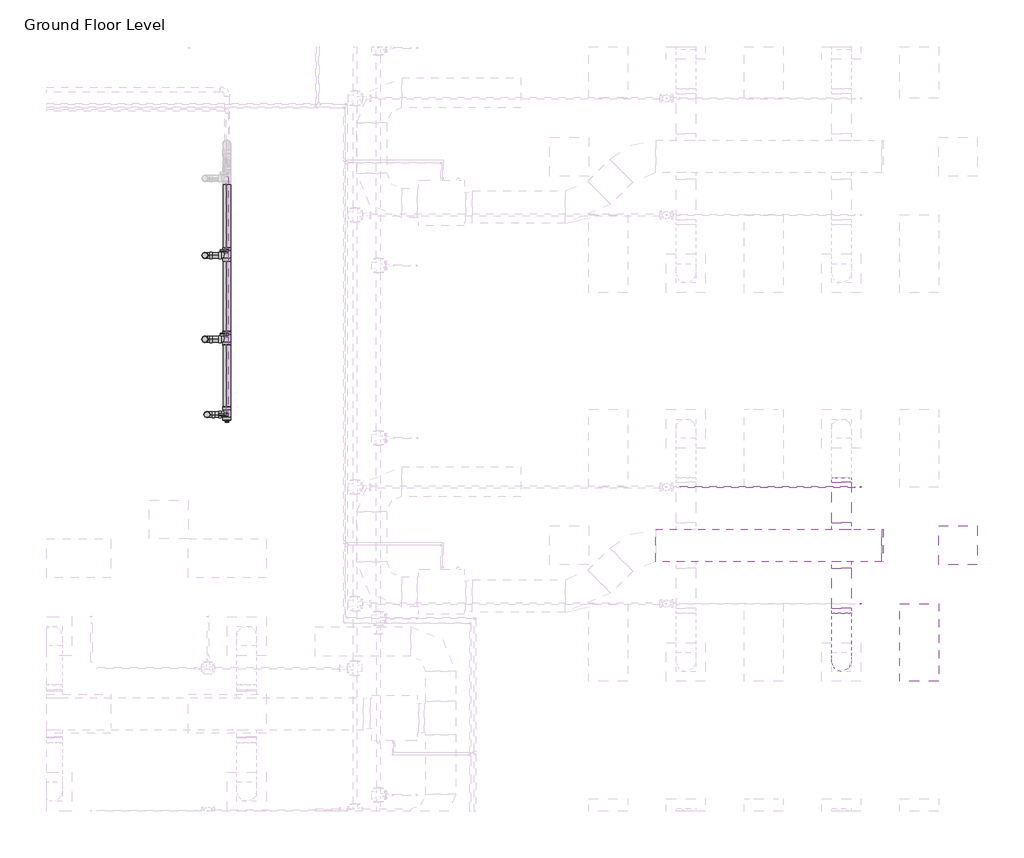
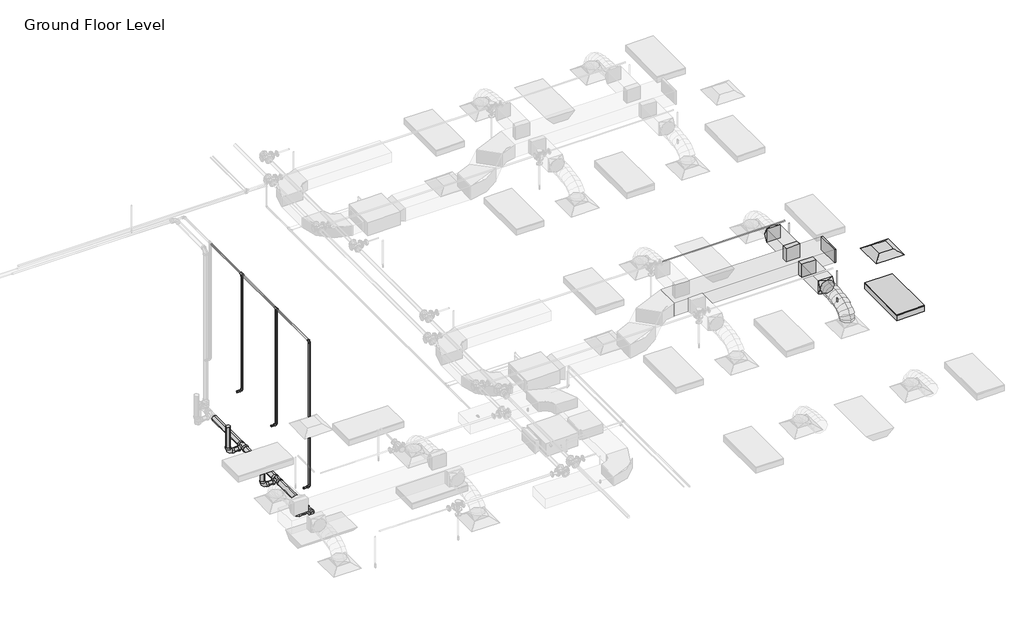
# One storey, part 64 of 72: 21 pipe segments, 13 pipe fittings, 5 duct fittings, 4 duct segments, 2 fire suppression terminals, 1 air terminal, 1 light fixture.
"""IFC4 building model written with IfcOpenShell, lengths in millimetres."""

from ifc_helpers import new_model, si_unit, point, frame, frame_2d, origin, place, context, project, spatial, polyline, circle_curve, ellipse_curve, trimmed, segment, composite_curve, outline, extrude, transform, mapped, element, save
from ifc_brep_helpers import plane_surface, cylinder_surface, advanced_brep
from components import m_return_diffuser_600_x_600_face_300_x_300_connection_ff221211, m_rectangular_endcap_standard_72d4d00d, m_rectangular_takeoff_standard_cb0ccb98, m_rectangular_takeoff_standard_2be5eba1, m_rectangular_to_round_transition_angle_45_degree_641efff0, m_sprinkler_dry_pendent_hosted_15_mm_dry_pendent_9bda8e11, m_troffer_light_parabolic_rectangular1_0600x1200mm_4_lamp_86473d4a, m_bend_pvc_sch_40_dwv_standard_a4b99d37, m_plug_pvc_sch_40_dwv_standard_6c40de1c, m_tee_reducing_sanitary_pvc_sch_40_dwv_standard_b49161a9, standard_517a5a8d, standard_72b35c3b, standard_bfa7e4ca

model = new_model("IFC4")

# Units and contexts
model_context = context("Model", 3, world=origin())
ifc_project = project(units=[si_unit("LENGTHUNIT", "METRE", prefix="MILLI")], contexts=[model_context])

# Site, building, storey
site = spatial("IfcSite", under=ifc_project)
building = spatial("IfcBuilding", under=site)
storey = spatial("IfcBuildingStorey", under=building, Name="Ground Floor Level", Elevation=900.0)

# Air terminal
placement = place(None, origin())
m_return_diffuser_600_x_600_face_300_x_300_connection_shape = m_return_diffuser_600_x_600_face_300_x_300_connection_ff221211(model_context)
element("IfcAirTerminal", 1, ObjectType="M_Return Diffuser : 600 x 600 Face 300 x 300 Connection", at=placement, inside=storey, context=model_context, shape_type="MappedRepresentation", body=[
    mapped(m_return_diffuser_600_x_600_face_300_x_300_connection_shape, transform((14942.7672395, 6735.2153534, 3650.0), x_axis=(1.0, 0.0, 0.0), y_axis=(0.0, 1.0, 0.0), z_axis=(0.0, 0.0, 1.0))),
])

# Duct fittings
m_rectangular_endcap_standard_shape = m_rectangular_endcap_standard_72d4d00d(model_context)
element("IfcDuctFitting", 2, ObjectType="M_Rectangular Endcap : Standard", at=placement, inside=storey, context=model_context, shape_type="MappedRepresentation", body=[
    mapped(m_rectangular_endcap_standard_shape, transform((13766.7301365, 6735.2153534, 4100.0), x_axis=(1.0, 0.0, 0.0), y_axis=(0.0, 1.0, 0.0), z_axis=(0.0, 0.0, 1.0))),
])
m_rectangular_takeoff_standard_shape = m_rectangular_takeoff_standard_cb0ccb98(model_context)
element("IfcDuctFitting", 3, ObjectType="M_Rectangular Takeoff : Standard", at=placement, inside=storey, context=model_context, shape_type="MappedRepresentation", body=[
    mapped(m_rectangular_takeoff_standard_shape, transform((13142.7672395, 6985.2153534, 4100.0), x_axis=(0.0, 1.0, 0.0), y_axis=(1.0, 0.0, 0.0), z_axis=(0.0, 0.0, -1.0))),
])
m_rectangular_takeoff_standard_2_shape = m_rectangular_takeoff_standard_2be5eba1(model_context)
element("IfcDuctFitting", 4, ObjectType="M_Rectangular Takeoff : Standard", at=placement, inside=storey, context=model_context, shape_type="MappedRepresentation", body=[
    mapped(m_rectangular_takeoff_standard_2_shape, transform((13142.7672395, 6485.2153534, 4100.0), x_axis=(0.0, -1.0, 0.0), y_axis=(-1.0, 0.0, 0.0), z_axis=(0.0, 0.0, -1.0))),
])
m_rectangular_to_round_transition_angle_45_degree_shape = m_rectangular_to_round_transition_angle_45_degree_641efff0(model_context)
element("IfcDuctFitting", 5, ObjectType="M_Rectangular to Round Transition - Angle : 45 Degree", at=placement, inside=storey, context=model_context, shape_type="MappedRepresentation", body=[
    mapped(m_rectangular_to_round_transition_angle_45_degree_shape, transform((13142.7672395, 5762.5512847, 4100.0), x_axis=(0.0, -1.0, 0.0), y_axis=(1.0, 0.0, 0.0), z_axis=(0.0, 0.0, 1.0))),
])
element("IfcDuctFitting", 6, ObjectType="M_Rectangular to Round Transition - Angle : 45 Degree", at=placement, inside=storey, context=model_context, shape_type="MappedRepresentation", body=[
    mapped(m_rectangular_to_round_transition_angle_45_degree_shape, transform((13142.7672395, 7707.8794221, 4100.0), x_axis=(0.0, 1.0, 0.0), y_axis=(-1.0, 0.0, 0.0), z_axis=(0.0, 0.0, 1.0))),
])

# Duct segments
element("IfcDuctSegment", 7, ObjectType="Flex - Round", at=placement, inside=storey, context=model_context, shape_type="AdvancedBrep", body=[
    advanced_brep(
    [(13292.7672395, 4935.2153534, 3826.6), (13142.7672395, 4785.2153534, 3826.6), (12992.7672395, 4935.2153534, 3826.6), (13142.7672395, 5085.2153534, 3826.6), (13292.7672395, 4935.2153534, 3857.9377114), (13142.7672395, 4785.2153534, 3883.5809337), (12992.7672395, 4935.2153534, 3857.9377114), (13142.7672395, 5085.2153534, 3832.2944892), (13292.7672395, 4952.2312859, 3906.2505728), (13142.7672395, 4818.493307, 3978.0660967), (12992.7672395, 4952.2312859, 3906.2505728), (13142.7672395, 5085.9692649, 3834.435049), (13292.7672395, 4999.4151663, 3968.7113131), (13142.7672395, 4895.209267, 4079.6206026), (12992.7672395, 4999.4151663, 3968.7113131), (13142.7672395, 5103.6210655, 3857.8020236), (13292.7672395, 5070.9711184, 4016.0700639), (13142.7672395, 5002.0370628, 4150.3237489), (12992.7672395, 5070.9711184, 4016.0700639), (13142.7672395, 5139.9051741, 3881.8163788), (13292.7672395, 5161.1032664, 4050.4146682), (13142.7672395, 5117.5425033, 4194.3367758), (12992.7672395, 5161.1032664, 4050.4146682), (13142.7672395, 5204.6640296, 3906.4925606), (13292.7672395, 5264.0157343, 4073.8329691), (13142.7672395, 5237.4548103, 4221.6234841), (12992.7672395, 5264.0157343, 4073.8329691), (13142.7672395, 5290.5766583, 3926.0424542), (13292.7672395, 5373.912646, 4088.4128097), (13142.7672395, 5358.7617437, 4237.7170733), (12992.7672395, 5373.912646, 4088.4128097), (13142.7672395, 5389.0635483, 3939.1085462), (13292.7672395, 5484.9981256, 4096.242033), (13142.7672395, 5477.4927974, 4246.085151), (12992.7672395, 5484.9981256, 4096.242033), (13142.7672395, 5492.5034538, 3946.398915), (13292.7672395, 5591.4762972, 4099.4084821), (13142.7672395, 5588.7848041, 4249.394754), (12992.7672395, 5591.4762972, 4099.4084821), (13142.7672395, 5594.1677903, 3949.4222102), (13292.7672395, 5687.5512847, 4100.0), (13142.7672395, 5688.4747925, 3950.0028429), (12992.7672395, 5687.5512847, 4100.0), (13142.7672395, 5686.6277768, 4249.9971571)],
    [
        (0, 1, circle_curve(frame((13142.7672395, 4935.2153534, 3826.6), z_axis=(0.0, 0.0, -1.0), x_axis=(1.0, 0.0, 0.0)), 150.0)),
        (1, 2, circle_curve(frame((13142.7672395, 4935.2153534, 3826.6), z_axis=(0.0, 0.0, -1.0), x_axis=(1.0, 0.0, 0.0)), 150.0)),
        (2, 3, circle_curve(frame((13142.7672395, 4935.2153534, 3826.6), z_axis=(0.0, 0.0, -1.0), x_axis=(1.0, 0.0, 0.0)), 150.0)),
        (3, 0, circle_curve(frame((13142.7672395, 4935.2153534, 3826.6), z_axis=(0.0, 0.0, -1.0), x_axis=(1.0, 0.0, 0.0)), 150.0)),
        (0, 4),
        (4, 5, ellipse_curve(frame((13142.7672395, 4935.2153534, 3857.9377114), z_axis=(0.0, -0.16851014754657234, -0.9856999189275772), x_axis=(0.0, 0.9856999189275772, -0.1685101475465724)), 152.176131, 150.0)),
        (5, 1),
        (5, 6, ellipse_curve(frame((13142.7672395, 4935.2153534, 3857.9377114), z_axis=(0.0, -0.16851014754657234, -0.9856999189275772), x_axis=(0.0, 0.9856999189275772, -0.1685101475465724)), 152.176131, 150.0)),
        (6, 2),
        (6, 7, ellipse_curve(frame((13142.7672395, 4935.2153534, 3857.9377114), z_axis=(0.0, -0.16851014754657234, -0.9856999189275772), x_axis=(0.0, 0.9856999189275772, -0.1685101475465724)), 152.176131, 150.0)),
        (7, 3),
        (7, 4, ellipse_curve(frame((13142.7672395, 4935.2153534, 3857.9377114), z_axis=(0.0, -0.16851014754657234, -0.9856999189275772), x_axis=(0.0, 0.9856999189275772, -0.1685101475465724)), 152.176131, 150.0)),
        (4, 8),
        (8, 9, ellipse_curve(frame((13142.7672395, 4952.2312859, 3906.2505728), z_axis=(0.0, -0.4730922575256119, -0.8810128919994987), x_axis=(0.0, 0.8810128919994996, -0.47309225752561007)), 151.8002519, 150.0)),
        (9, 5),
        (9, 10, ellipse_curve(frame((13142.7672395, 4952.2312859, 3906.2505728), z_axis=(0.0, -0.4730922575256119, -0.8810128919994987), x_axis=(0.0, 0.8810128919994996, -0.47309225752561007)), 151.8002519, 150.0)),
        (10, 6),
        (10, 11, ellipse_curve(frame((13142.7672395, 4952.2312859, 3906.2505728), z_axis=(0.0, -0.4730922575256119, -0.8810128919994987), x_axis=(0.0, 0.8810128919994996, -0.47309225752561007)), 151.8002519, 150.0)),
        (11, 7),
        (11, 8, ellipse_curve(frame((13142.7672395, 4952.2312859, 3906.2505728), z_axis=(0.0, -0.4730922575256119, -0.8810128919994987), x_axis=(0.0, 0.8810128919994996, -0.47309225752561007)), 151.8002519, 150.0)),
        (8, 12),
        (12, 13, ellipse_curve(frame((13142.7672395, 4999.4151663, 3968.7113131), z_axis=(0.0, -0.7287877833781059, -0.6847396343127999), x_axis=(0.0, 0.6847396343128, -0.7287877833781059)), 152.1832446, 150.0)),
        (13, 9),
        (13, 14, ellipse_curve(frame((13142.7672395, 4999.4151663, 3968.7113131), z_axis=(0.0, -0.7287877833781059, -0.6847396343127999), x_axis=(0.0, 0.6847396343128, -0.7287877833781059)), 152.1832446, 150.0)),
        (14, 10),
        (14, 15, ellipse_curve(frame((13142.7672395, 4999.4151663, 3968.7113131), z_axis=(0.0, -0.7287877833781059, -0.6847396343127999), x_axis=(0.0, 0.6847396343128, -0.7287877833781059)), 152.1832446, 150.0)),
        (15, 11),
        (15, 12, ellipse_curve(frame((13142.7672395, 4999.4151663, 3968.7113131), z_axis=(0.0, -0.7287877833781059, -0.6847396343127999), x_axis=(0.0, 0.6847396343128, -0.7287877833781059)), 152.1832446, 150.0)),
        (12, 16),
        (16, 17, ellipse_curve(frame((13142.7672395, 5070.9711184, 4016.0700639), z_axis=(0.0, -0.8895859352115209, -0.4567678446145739), x_axis=(0.0, 0.4567678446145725, -0.8895859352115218)), 150.91705, 150.0)),
        (17, 13),
        (17, 18, ellipse_curve(frame((13142.7672395, 5070.9711184, 4016.0700639), z_axis=(0.0, -0.8895859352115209, -0.4567678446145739), x_axis=(0.0, 0.4567678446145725, -0.8895859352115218)), 150.91705, 150.0)),
        (18, 14),
        (18, 19, ellipse_curve(frame((13142.7672395, 5070.9711184, 4016.0700639), z_axis=(0.0, -0.8895859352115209, -0.4567678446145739), x_axis=(0.0, 0.4567678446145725, -0.8895859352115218)), 150.91705, 150.0)),
        (19, 15),
        (19, 16, ellipse_curve(frame((13142.7672395, 5070.9711184, 4016.0700639), z_axis=(0.0, -0.8895859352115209, -0.4567678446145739), x_axis=(0.0, 0.4567678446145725, -0.8895859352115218)), 150.91705, 150.0)),
        (16, 20),
        (20, 21, ellipse_curve(frame((13142.7672395, 5161.1032664, 4050.4146682), z_axis=(0.0, -0.9571203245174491, -0.28969067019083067), x_axis=(0.0, 0.28969067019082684, -0.9571203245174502)), 150.369921, 150.0)),
        (21, 17),
        (21, 22, ellipse_curve(frame((13142.7672395, 5161.1032664, 4050.4146682), z_axis=(0.0, -0.9571203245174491, -0.28969067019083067), x_axis=(0.0, 0.28969067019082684, -0.9571203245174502)), 150.369921, 150.0)),
        (22, 18),
        (22, 23, ellipse_curve(frame((13142.7672395, 5161.1032664, 4050.4146682), z_axis=(0.0, -0.9571203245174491, -0.28969067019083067), x_axis=(0.0, 0.28969067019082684, -0.9571203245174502)), 150.369921, 150.0)),
        (23, 19),
        (23, 20, ellipse_curve(frame((13142.7672395, 5161.1032664, 4050.4146682), z_axis=(0.0, -0.9571203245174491, -0.28969067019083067), x_axis=(0.0, 0.28969067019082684, -0.9571203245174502)), 150.369921, 150.0)),
        (20, 24),
        (24, 25, ellipse_curve(frame((13142.7672395, 5264.0157343, 4073.8329691), z_axis=(0.0, -0.9842313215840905, -0.17688613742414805), x_axis=(0.0, 0.17688613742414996, -0.9842313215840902)), 150.1583131, 150.0)),
        (25, 21),
        (25, 26, ellipse_curve(frame((13142.7672395, 5264.0157343, 4073.8329691), z_axis=(0.0, -0.9842313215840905, -0.17688613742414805), x_axis=(0.0, 0.17688613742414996, -0.9842313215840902)), 150.1583131, 150.0)),
        (26, 22),
        (26, 27, ellipse_curve(frame((13142.7672395, 5264.0157343, 4073.8329691), z_axis=(0.0, -0.9842313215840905, -0.17688613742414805), x_axis=(0.0, 0.17688613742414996, -0.9842313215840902)), 150.1583131, 150.0)),
        (27, 23),
        (27, 24, ellipse_curve(frame((13142.7672395, 5264.0157343, 4073.8329691), z_axis=(0.0, -0.9842313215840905, -0.17688613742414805), x_axis=(0.0, 0.17688613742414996, -0.9842313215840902)), 150.1583131, 150.0)),
        (24, 28),
        (28, 29, ellipse_curve(frame((13142.7672395, 5373.912646, 4088.4128097), z_axis=(0.0, -0.9948906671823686, -0.10095821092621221), x_axis=(0.0, 0.10095821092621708, -0.9948906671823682)), 150.0710264, 150.0)),
        (29, 25),
        (29, 30, ellipse_curve(frame((13142.7672395, 5373.912646, 4088.4128097), z_axis=(0.0, -0.9948906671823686, -0.10095821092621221), x_axis=(0.0, 0.10095821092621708, -0.9948906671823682)), 150.0710264, 150.0)),
        (30, 26),
        (30, 31, ellipse_curve(frame((13142.7672395, 5373.912646, 4088.4128097), z_axis=(0.0, -0.9948906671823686, -0.10095821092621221), x_axis=(0.0, 0.10095821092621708, -0.9948906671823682)), 150.0710264, 150.0)),
        (31, 27),
        (31, 28, ellipse_curve(frame((13142.7672395, 5373.912646, 4088.4128097), z_axis=(0.0, -0.9948906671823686, -0.10095821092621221), x_axis=(0.0, 0.10095821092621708, -0.9948906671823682)), 150.0710264, 150.0)),
        (28, 32),
        (32, 33, ellipse_curve(frame((13142.7672395, 5484.9981256, 4096.242033), z_axis=(0.0, -0.9987479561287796, -0.05002519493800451), x_axis=(0.0, 0.050025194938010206, -0.9987479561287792)), 150.0309634, 150.0)),
        (33, 29),
        (33, 34, ellipse_curve(frame((13142.7672395, 5484.9981256, 4096.242033), z_axis=(0.0, -0.9987479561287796, -0.05002519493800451), x_axis=(0.0, 0.050025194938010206, -0.9987479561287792)), 150.0309634, 150.0)),
        (34, 30),
        (34, 35, ellipse_curve(frame((13142.7672395, 5484.9981256, 4096.242033), z_axis=(0.0, -0.9987479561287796, -0.05002519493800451), x_axis=(0.0, 0.050025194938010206, -0.9987479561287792)), 150.0309634, 150.0)),
        (35, 31),
        (35, 32, ellipse_curve(frame((13142.7672395, 5484.9981256, 4096.242033), z_axis=(0.0, -0.9987479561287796, -0.05002519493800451), x_axis=(0.0, 0.050025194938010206, -0.9987479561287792)), 150.0309634, 150.0)),
        (32, 36),
        (36, 37, ellipse_curve(frame((13142.7672395, 5591.4762972, 4099.4084821), z_axis=(0.0, -0.9998390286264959, -0.017942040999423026), x_axis=(0.0, 0.01794204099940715, -0.9998390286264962)), 150.0104193, 150.0)),
        (37, 33),
        (37, 38, ellipse_curve(frame((13142.7672395, 5591.4762972, 4099.4084821), z_axis=(0.0, -0.9998390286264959, -0.017942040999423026), x_axis=(0.0, 0.01794204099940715, -0.9998390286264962)), 150.0104193, 150.0)),
        (38, 34),
        (38, 39, ellipse_curve(frame((13142.7672395, 5591.4762972, 4099.4084821), z_axis=(0.0, -0.9998390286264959, -0.017942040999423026), x_axis=(0.0, 0.01794204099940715, -0.9998390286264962)), 150.0104193, 150.0)),
        (39, 35),
        (39, 36, ellipse_curve(frame((13142.7672395, 5591.4762972, 4099.4084821), z_axis=(0.0, -0.9998390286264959, -0.017942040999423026), x_axis=(0.0, 0.01794204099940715, -0.9998390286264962)), 150.0104193, 150.0)),
        (40, 41, circle_curve(frame((13142.7672395, 5687.5512847, 4100.0), z_axis=(0.0, 0.9999810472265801, 0.006156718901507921), x_axis=(1.0, 0.0, 0.0)), 150.0)),
        (41, 42, circle_curve(frame((13142.7672395, 5687.5512847, 4100.0), z_axis=(0.0, 0.9999810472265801, 0.006156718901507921), x_axis=(1.0, 0.0, 0.0)), 150.0)),
        (42, 43, circle_curve(frame((13142.7672395, 5687.5512847, 4100.0), z_axis=(0.0, 0.9999810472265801, 0.006156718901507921), x_axis=(1.0, 0.0, 0.0)), 150.0)),
        (43, 40, circle_curve(frame((13142.7672395, 5687.5512847, 4100.0), z_axis=(0.0, 0.9999810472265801, 0.006156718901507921), x_axis=(1.0, 0.0, 0.0)), 150.0)),
        (36, 40),
        (43, 37),
        (42, 38),
        (41, 39),
    ],
    [
        plane_surface(frame((13142.7672395, 4785.2153534, 3826.6), z_axis=(0.0, 0.0, -1.0), x_axis=(1.0, 0.0, 0.0))),
        cylinder_surface(frame((13142.7672395, 4935.2153534, 3826.6), z_axis=(0.0, 0.0, -1.0), x_axis=(1.0, 0.0, 0.0)), 150.0),
        cylinder_surface(frame((13142.7672395, 4935.2153534, 3857.9377114), z_axis=(0.0, -0.3322008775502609, -0.9432086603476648), x_axis=(1.0, 0.0, 0.0)), 150.0),
        cylinder_surface(frame((13142.7672395, 4952.2312859, 3906.2505728), z_axis=(0.0, -0.6027625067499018, -0.7979206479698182), x_axis=(1.0, 0.0, 0.0)), 150.0),
        cylinder_surface(frame((13142.7672395, 4999.4151663, 3968.7113131), z_axis=(0.0, -0.8339024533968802, -0.5519118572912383), x_axis=(1.0, 0.0, 0.0)), 150.0),
        cylinder_surface(frame((13142.7672395, 5070.9711184, 4016.0700639), z_axis=(0.0, -0.934458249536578, -0.35607271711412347), x_axis=(1.0, 0.0, 0.0)), 150.0),
        cylinder_surface(frame((13142.7672395, 5161.1032664, 4050.4146682), z_axis=(0.0, -0.9750732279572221, -0.22188330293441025), x_axis=(1.0, 0.0, 0.0)), 150.0),
        cylinder_surface(frame((13142.7672395, 5264.0157343, 4073.8329691), z_axis=(0.0, -0.9913140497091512, -0.1315159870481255), x_axis=(1.0, 0.0, 0.0)), 150.0),
        cylinder_surface(frame((13142.7672395, 5373.912646, 4088.4128097), z_axis=(0.0, -0.9975255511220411, -0.07030487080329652), x_axis=(1.0, 0.0, 0.0)), 150.0),
        cylinder_surface(frame((13142.7672395, 5484.9981256, 4096.242033), z_axis=(0.0, -0.9995581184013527, -0.02972487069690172), x_axis=(1.0, 0.0, 0.0)), 150.0),
        plane_surface(frame((13142.7672395, 5686.6277768, 4249.9971571), z_axis=(0.0, 0.9999810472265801, 0.0061567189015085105), x_axis=(1.0, 0.0, 0.0))),
        cylinder_surface(frame((13142.7672395, 5591.4762972, 4099.4084821), z_axis=(0.0, -0.9999810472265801, -0.006156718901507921), x_axis=(1.0, 0.0, 0.0)), 150.0),
    ],
    [
        (0, [[1, 2, 3, 4]]),
        (1, [[-1, 5, 6, 7]]),
        (1, [[-2, -7, 8, 9]]),
        (1, [[-3, -9, 10, 11]]),
        (1, [[-4, -11, 12, -5]]),
        (2, [[-6, 13, 14, 15]]),
        (2, [[-8, -15, 16, 17]]),
        (2, [[-10, -17, 18, 19]]),
        (2, [[-12, -19, 20, -13]]),
        (3, [[-14, 21, 22, 23]]),
        (3, [[-16, -23, 24, 25]]),
        (3, [[-18, -25, 26, 27]]),
        (3, [[-20, -27, 28, -21]]),
        (4, [[-22, 29, 30, 31]]),
        (4, [[-24, -31, 32, 33]]),
        (4, [[-26, -33, 34, 35]]),
        (4, [[-28, -35, 36, -29]]),
        (5, [[-30, 37, 38, 39]]),
        (5, [[-32, -39, 40, 41]]),
        (5, [[-34, -41, 42, 43]]),
        (5, [[-36, -43, 44, -37]]),
        (6, [[-38, 45, 46, 47]]),
        (6, [[-40, -47, 48, 49]]),
        (6, [[-42, -49, 50, 51]]),
        (6, [[-44, -51, 52, -45]]),
        (7, [[-46, 53, 54, 55]]),
        (7, [[-48, -55, 56, 57]]),
        (7, [[-50, -57, 58, 59]]),
        (7, [[-52, -59, 60, -53]]),
        (8, [[-54, 61, 62, 63]]),
        (8, [[-56, -63, 64, 65]]),
        (8, [[-58, -65, 66, 67]]),
        (8, [[-60, -67, 68, -61]]),
        (9, [[-62, 69, 70, 71]]),
        (9, [[-64, -71, 72, 73]]),
        (9, [[-66, -73, 74, 75]]),
        (9, [[-68, -75, 76, -69]]),
        (10, [[77, 78, 79, 80]]),
        (11, [[-70, 81, -80, 82]]),
        (11, [[-72, -82, -79, 83]]),
        (11, [[-74, -83, -78, 84]]),
        (11, [[-76, -84, -77, -81]]),
    ],
),
])
element("IfcDuctSegment", 8, ObjectType="Radius Elbows / Taps", at=placement, inside=storey, context=model_context, shape_type="SweptSolid", body=[
    extrude(outline(polyline([(10277.3903083, 6485.2153534), (10277.3903083, 6985.2153534), (13766.7301365, 6985.2153534), (13766.7301365, 6485.2153534), (10277.3903083, 6485.2153534)])), frame((0.0, 0.0, 3950.0), z_axis=(0.0, 0.0, 1.0), x_axis=(1.0, 0.0, 0.0)), (0.0, 0.0, 1.0), 300.0),
])
element("IfcDuctSegment", 9, ObjectType="Radius Elbows / Taps", at=placement, inside=storey, context=model_context, shape_type="SweptSolid", body=[
    extrude(outline(polyline([(13292.7672395, 7086.8153534), (12992.7672395, 7086.8153534), (12992.7672395, 7707.8794221), (13292.7672395, 7707.8794221), (13292.7672395, 7086.8153534)])), frame((0.0, 0.0, 3950.0), z_axis=(0.0, 0.0, 1.0), x_axis=(1.0, 0.0, 0.0)), (0.0, 0.0, 1.0), 300.0),
])
element("IfcDuctSegment", 10, ObjectType="Radius Elbows / Taps", at=placement, inside=storey, context=model_context, shape_type="SweptSolid", body=[
    extrude(outline(polyline([(12992.7672395, 6383.6153534), (13292.7672395, 6383.6153534), (13292.7672395, 5762.5512847), (12992.7672395, 5762.5512847), (12992.7672395, 6383.6153534)])), frame((0.0, 0.0, 3950.0), z_axis=(0.0, 0.0, 1.0), x_axis=(1.0, 0.0, 0.0)), (0.0, 0.0, 1.0), 300.0),
])

# Fire suppression terminals
m_sprinkler_dry_pendent_hosted_15_mm_dry_pendent_shape = m_sprinkler_dry_pendent_hosted_15_mm_dry_pendent_9bda8e11(model_context)
element("IfcFireSuppressionTerminal", 11, ObjectType="M_Sprinkler - Dry - Pendent - Hosted : 15 mm Dry Pendent", at=placement, inside=storey, context=model_context, shape_type="MappedRepresentation", body=[
    mapped(m_sprinkler_dry_pendent_hosted_15_mm_dry_pendent_shape, transform((13442.7672395, 7635.2153534, 3650.0), x_axis=(1.0, 0.0, 0.0), y_axis=(0.0, -1.0, 0.0), z_axis=(0.0, 0.0, -1.0))),
])
element("IfcFireSuppressionTerminal", 12, ObjectType="M_Sprinkler - Dry - Pendent - Hosted : 15 mm Dry Pendent", at=placement, inside=storey, context=model_context, shape_type="MappedRepresentation", body=[
    mapped(m_sprinkler_dry_pendent_hosted_15_mm_dry_pendent_shape, transform((13442.7672395, 5835.2153534, 3650.0), x_axis=(1.0, 0.0, 0.0), y_axis=(0.0, -1.0, 0.0), z_axis=(0.0, 0.0, -1.0))),
])

# Light fixture
m_troffer_light_parabolic_rectangular1_0600x1200mm_4_lamp_shape = m_troffer_light_parabolic_rectangular1_0600x1200mm_4_lamp_86473d4a(model_context)
element("IfcLightFixture", 13, ObjectType="M_Troffer Light - Parabolic Rectangular1 : 0600x1200mm(4 Lamp) - 277V 2", at=placement, inside=storey, context=model_context, shape_type="MappedRepresentation", body=[
    mapped(m_troffer_light_parabolic_rectangular1_0600x1200mm_4_lamp_shape, transform((14283.3013074, 5253.9188549, 3650.0), x_axis=(0.0, 1.0, 0.0), y_axis=(-1.0, 0.0, 0.0), z_axis=(0.0, 0.0, 1.0))),
])

# Pipe fittings
m_bend_pvc_sch_40_dwv_standard_shape = m_bend_pvc_sch_40_dwv_standard_a4b99d37(model_context)
element("IfcPipeFitting", 14, ObjectType="M_Bend - PVC - Sch 40 - DWV : Standard", at=placement, inside=storey, context=model_context, shape_type="MappedRepresentation", body=[
    mapped(m_bend_pvc_sch_40_dwv_standard_shape, transform((3351.3697667, 8754.4159333, 426.6255336), x_axis=(0.0, 0.0, -1.0), y_axis=(1.0, 0.0, 0.0), z_axis=(0.0, -1.0, 0.0))),
])
element("IfcPipeFitting", 15, ObjectType="M_Bend - PVC - Sch 40 - DWV : Standard", at=placement, inside=storey, context=model_context, shape_type="MappedRepresentation", body=[
    mapped(m_bend_pvc_sch_40_dwv_standard_shape, transform((3319.2245422, 9917.654001, 414.9931529), x_axis=(0.0, 0.0, -1.0), y_axis=(1.0, 0.0, 0.0), z_axis=(0.0, -1.0, 0.0))),
])
element("IfcPipeFitting", 16, ObjectType="M_Bend - PVC - Sch 40 - DWV : Standard", at=placement, inside=storey, context=model_context, shape_type="MappedRepresentation", body=[
    mapped(m_bend_pvc_sch_40_dwv_standard_shape, transform((3319.2245422, 11211.6258776, 402.0534342), x_axis=(0.0, 0.0, -1.0), y_axis=(1.0, 0.0, 0.0), z_axis=(0.0, -1.0, 0.0))),
])
m_plug_pvc_sch_40_dwv_standard_shape = m_plug_pvc_sch_40_dwv_standard_6c40de1c(model_context)
element("IfcPipeFitting", 17, ObjectType="M_Plug - PVC - Sch 40 - DWV : Standard", at=placement, inside=storey, context=model_context, shape_type="MappedRepresentation", body=[
    mapped(m_plug_pvc_sch_40_dwv_standard_shape, transform((3657.4922763, 8665.519878, 427.4644942), x_axis=(0.0, -0.9999500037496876, 0.009999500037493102), y_axis=(1.0, 0.0, 0.0), z_axis=(0.0, 0.009999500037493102, 0.9999500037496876))),
])
m_tee_reducing_sanitary_pvc_sch_40_dwv_standard_shape = m_tee_reducing_sanitary_pvc_sch_40_dwv_standard_b49161a9(model_context)
element("IfcPipeFitting", 18, ObjectType="M_Tee Reducing Sanitary - PVC - Sch 40 - DWV : Standard", at=placement, inside=storey, context=model_context, shape_type="MappedRepresentation", body=[
    mapped(m_tee_reducing_sanitary_pvc_sch_40_dwv_standard_shape, transform((3657.4922763, 8754.4154334, 426.5755386), x_axis=(0.0, -0.9999500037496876, 0.009999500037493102), y_axis=(1.0, 0.0, 0.0), z_axis=(0.0, 0.009999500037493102, 0.9999500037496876))),
])
element("IfcPipeFitting", 19, ObjectType="M_Tee Reducing Sanitary - PVC - Sch 40 - DWV : Standard", at=placement, inside=storey, context=model_context, shape_type="MappedRepresentation", body=[
    mapped(m_tee_reducing_sanitary_pvc_sch_40_dwv_standard_shape, transform((3657.4922763, 9917.6535011, 414.9431579), x_axis=(0.0, -0.9999500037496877, 0.009999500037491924), y_axis=(1.0000000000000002, 0.0, 0.0), z_axis=(0.0, 0.009999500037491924, 0.9999500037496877))),
])
element("IfcPipeFitting", 20, ObjectType="M_Tee Reducing Sanitary - PVC - Sch 40 - DWV : Standard", at=placement, inside=storey, context=model_context, shape_type="MappedRepresentation", body=[
    mapped(m_tee_reducing_sanitary_pvc_sch_40_dwv_standard_shape, transform((3657.4922763, 11211.6253777, 402.0034392), x_axis=(0.0, -0.9999500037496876, 0.00999950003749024), y_axis=(1.0, 0.0, 0.0), z_axis=(0.0, 0.00999950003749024, 0.9999500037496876))),
])
standard_shape = standard_517a5a8d(model_context)
element("IfcPipeFitting", 21, ObjectType="M_Elbow - CPVC - Sch 40 : Standard", at=placement, inside=storey, context=model_context, shape_type="MappedRepresentation", body=[
    mapped(standard_shape, transform((3662.4674395, 8754.4154334, 4315.0), x_axis=(0.0, -1.0, 0.0), y_axis=(0.0, 0.0, -1.0), z_axis=(1.0, 0.0, 0.0))),
])
element("IfcPipeFitting", 22, ObjectType="M_Elbow - CPVC - Sch 40 : Standard", at=placement, inside=storey, context=model_context, shape_type="MappedRepresentation", body=[
    mapped(standard_shape, transform((3662.4674395, 9991.0922673, 1655.0), x_axis=(0.0, 0.0, -1.0), y_axis=(-1.0, 0.0, 0.0), z_axis=(0.0, 1.0, 0.0))),
])
element("IfcPipeFitting", 23, ObjectType="M_Elbow - CPVC - Sch 40 : Standard", at=placement, inside=storey, context=model_context, shape_type="MappedRepresentation", body=[
    mapped(standard_shape, transform((3662.4674395, 11285.0641439, 1655.0), x_axis=(0.0, 0.0, -1.0), y_axis=(-1.0, 0.0, 0.0), z_axis=(0.0, 1.0, 0.0))),
])
standard_2_shape = standard_72b35c3b(model_context)
element("IfcPipeFitting", 24, ObjectType="M_Tee - CPVC - Sch 40 : Standard", at=placement, inside=storey, context=model_context, shape_type="MappedRepresentation", body=[
    mapped(standard_2_shape, transform((3662.4674395, 9991.0922673, 4315.0), x_axis=(0.0, -1.0, 0.0), y_axis=(0.0, 0.0, 1.0), z_axis=(-1.0, 0.0, 0.0))),
])
element("IfcPipeFitting", 25, ObjectType="M_Tee - CPVC - Sch 40 : Standard", at=placement, inside=storey, context=model_context, shape_type="MappedRepresentation", body=[
    mapped(standard_2_shape, transform((3662.4674395, 11285.0641439, 4315.0), x_axis=(0.0, -1.0, 0.0), y_axis=(0.0, 0.0, 1.0), z_axis=(-1.0, 0.0, 0.0))),
])
standard_3_shape = standard_bfa7e4ca(model_context)
element("IfcPipeFitting", 26, ObjectType="M_Elbow - CPVC - Sch 40 : Standard", at=placement, inside=storey, context=model_context, shape_type="MappedRepresentation", body=[
    mapped(standard_3_shape, transform((3662.4674395, 8754.4154334, 983.5), x_axis=(0.0, 0.0, -1.0), y_axis=(-1.0, 0.0, 0.0), z_axis=(0.0, 1.0, 0.0))),
])

# Pipe segments
element("IfcPipeSegment", 27, ObjectType="CPVC", at=placement, inside=storey, context=model_context, shape_type="SweptSolid", body=[
    extrude(outline(composite_curve([segment(trimmed(circle_curve(frame_2d((8754.4154334, 983.4999927)), 16.7005), [point((8771.1159334, 983.4999927))], [point((8754.4154334, 966.7994927))], False, "CARTESIAN"), True, "CONTINUOUS"), segment(trimmed(circle_curve(frame_2d((8754.4154334, 983.4999927)), 16.7005), [point((8754.4154334, 966.7994927))], [point((8737.7149334, 983.4999927))], False, "CARTESIAN"), True, "CONTINUOUS"), segment(trimmed(circle_curve(frame_2d((8754.4154334, 983.4999927)), 16.7005), [point((8737.7149334, 983.4999927))], [point((8754.4154334, 1000.2004927))], False, "CARTESIAN"), True, "CONTINUOUS"), segment(trimmed(circle_curve(frame_2d((8754.4154334, 983.4999927)), 16.7005), [point((8754.4154334, 1000.2004927))], [point((8771.1159334, 983.4999927))], False, "CARTESIAN"), True, "CONTINUOUS")], self_intersect=False)), frame((3537.5384422, 0.0, 0.0), z_axis=(1.0, 0.0, 0.0), x_axis=(0.0, 1.0, 0.0)), (0.0, 0.0, 1.0), 81.6664508),
])
element("IfcPipeSegment", 28, ObjectType="CPVC", at=placement, inside=storey, context=model_context, shape_type="SweptSolid", body=[
    extrude(outline(composite_curve([segment(trimmed(circle_curve(frame_2d((3662.4674395, 8754.4154334)), 16.7005), [point((3679.1679395, 8754.4154334))], [point((3662.4674395, 8737.7149334))], False, "CARTESIAN"), True, "CONTINUOUS"), segment(trimmed(circle_curve(frame_2d((3662.4674395, 8754.4154334)), 16.7005), [point((3662.4674395, 8737.7149334))], [point((3645.7669395, 8754.4154334))], False, "CARTESIAN"), True, "CONTINUOUS"), segment(trimmed(circle_curve(frame_2d((3662.4674395, 8754.4154334)), 16.7005), [point((3645.7669395, 8754.4154334))], [point((3662.4674395, 8771.1159334))], False, "CARTESIAN"), True, "CONTINUOUS"), segment(trimmed(circle_curve(frame_2d((3662.4674395, 8754.4154334)), 16.7005), [point((3662.4674395, 8771.1159334))], [point((3679.1679395, 8754.4154334))], False, "CARTESIAN"), True, "CONTINUOUS")], self_intersect=False)), frame((0.0, 0.0, 1026.7625464), z_axis=(0.0, 0.0, 1.0), x_axis=(1.0, 0.0, 0.0)), (0.0, 0.0, 1.0), 3244.9749036),
])
element("IfcPipeSegment", 29, ObjectType="CPVC", at=placement, inside=storey, context=model_context, shape_type="SweptSolid", body=[
    extrude(outline(composite_curve([segment(trimmed(circle_curve(frame_2d((4315.0, 3662.4674395)), 16.7005), [point((4315.0, 3645.7669395))], [point((4298.2995, 3662.4674395))], False, "CARTESIAN"), True, "CONTINUOUS"), segment(trimmed(circle_curve(frame_2d((4315.0, 3662.4674395)), 16.7005), [point((4298.2995, 3662.4674395))], [point((4315.0, 3679.1679395))], False, "CARTESIAN"), True, "CONTINUOUS"), segment(trimmed(circle_curve(frame_2d((4315.0, 3662.4674395)), 16.7005), [point((4315.0, 3679.1679395))], [point((4331.7005, 3662.4674395))], False, "CARTESIAN"), True, "CONTINUOUS"), segment(trimmed(circle_curve(frame_2d((4315.0, 3662.4674395)), 16.7005), [point((4331.7005, 3662.4674395))], [point((4315.0, 3645.7669395))], False, "CARTESIAN"), True, "CONTINUOUS")], self_intersect=False)), frame((0.0, 8797.6779834, 0.0), z_axis=(0.0, 1.0, 0.0), x_axis=(0.0, 0.0, 1.0)), (0.0, 0.0, 1.0), 1153.7140839),
])
element("IfcPipeSegment", 30, ObjectType="CPVC", at=placement, inside=storey, context=model_context, shape_type="SweptSolid", body=[
    extrude(outline(composite_curve([segment(trimmed(circle_curve(frame_2d((9991.0922673, 1655.0)), 16.7005), [point((10007.7927673, 1655.0))], [point((9991.0922673, 1638.2995))], False, "CARTESIAN"), True, "CONTINUOUS"), segment(trimmed(circle_curve(frame_2d((9991.0922673, 1655.0)), 16.7005), [point((9991.0922673, 1638.2995))], [point((9974.3917673, 1655.0))], False, "CARTESIAN"), True, "CONTINUOUS"), segment(trimmed(circle_curve(frame_2d((9991.0922673, 1655.0)), 16.7005), [point((9974.3917673, 1655.0))], [point((9991.0922673, 1671.7005))], False, "CARTESIAN"), True, "CONTINUOUS"), segment(trimmed(circle_curve(frame_2d((9991.0922673, 1655.0)), 16.7005), [point((9991.0922673, 1671.7005))], [point((10007.7927673, 1655.0))], False, "CARTESIAN"), True, "CONTINUOUS")], self_intersect=False)), frame((3552.7672395, 0.0, 0.0), z_axis=(1.0, 0.0, 0.0), x_axis=(0.0, 1.0, 0.0)), (0.0, 0.0, 1.0), 66.43765),
])
element("IfcPipeSegment", 31, ObjectType="CPVC", at=placement, inside=storey, context=model_context, shape_type="SweptSolid", body=[
    extrude(outline(composite_curve([segment(trimmed(circle_curve(frame_2d((3662.4674395, 9991.0922673)), 16.7005), [point((3679.1679395, 9991.0922673))], [point((3662.4674395, 9974.3917673))], False, "CARTESIAN"), True, "CONTINUOUS"), segment(trimmed(circle_curve(frame_2d((3662.4674395, 9991.0922673)), 16.7005), [point((3662.4674395, 9974.3917673))], [point((3645.7669395, 9991.0922673))], False, "CARTESIAN"), True, "CONTINUOUS"), segment(trimmed(circle_curve(frame_2d((3662.4674395, 9991.0922673)), 16.7005), [point((3645.7669395, 9991.0922673))], [point((3662.4674395, 10007.7927673))], False, "CARTESIAN"), True, "CONTINUOUS"), segment(trimmed(circle_curve(frame_2d((3662.4674395, 9991.0922673)), 16.7005), [point((3662.4674395, 10007.7927673))], [point((3679.1679395, 9991.0922673))], False, "CARTESIAN"), True, "CONTINUOUS")], self_intersect=False)), frame((0.0, 0.0, 1698.26255), z_axis=(0.0, 0.0, 1.0), x_axis=(1.0, 0.0, 0.0)), (0.0, 0.0, 1.0), 2577.03725),
])
element("IfcPipeSegment", 32, ObjectType="CPVC", at=placement, inside=storey, context=model_context, shape_type="SweptSolid", body=[
    extrude(outline(composite_curve([segment(trimmed(circle_curve(frame_2d((4315.0, 3662.4674395)), 16.7005), [point((4315.0, 3645.7669395))], [point((4298.2995, 3662.4674395))], False, "CARTESIAN"), True, "CONTINUOUS"), segment(trimmed(circle_curve(frame_2d((4315.0, 3662.4674395)), 16.7005), [point((4298.2995, 3662.4674395))], [point((4315.0, 3679.1679395))], False, "CARTESIAN"), True, "CONTINUOUS"), segment(trimmed(circle_curve(frame_2d((4315.0, 3662.4674395)), 16.7005), [point((4315.0, 3679.1679395))], [point((4331.7005, 3662.4674395))], False, "CARTESIAN"), True, "CONTINUOUS"), segment(trimmed(circle_curve(frame_2d((4315.0, 3662.4674395)), 16.7005), [point((4331.7005, 3662.4674395))], [point((4315.0, 3645.7669395))], False, "CARTESIAN"), True, "CONTINUOUS")], self_intersect=False)), frame((0.0, 10030.7924673, 0.0), z_axis=(0.0, 1.0, 0.0), x_axis=(0.0, 0.0, 1.0)), (0.0, 0.0, 1.0), 1214.5714766),
])
element("IfcPipeSegment", 33, ObjectType="CPVC", at=placement, inside=storey, context=model_context, shape_type="SweptSolid", body=[
    extrude(outline(composite_curve([segment(trimmed(circle_curve(frame_2d((11285.0641439, 1655.0)), 16.7005), [point((11301.7646439, 1655.0))], [point((11285.0641439, 1638.2995))], False, "CARTESIAN"), True, "CONTINUOUS"), segment(trimmed(circle_curve(frame_2d((11285.0641439, 1655.0)), 16.7005), [point((11285.0641439, 1638.2995))], [point((11268.3636439, 1655.0))], False, "CARTESIAN"), True, "CONTINUOUS"), segment(trimmed(circle_curve(frame_2d((11285.0641439, 1655.0)), 16.7005), [point((11268.3636439, 1655.0))], [point((11285.0641439, 1671.7005))], False, "CARTESIAN"), True, "CONTINUOUS"), segment(trimmed(circle_curve(frame_2d((11285.0641439, 1655.0)), 16.7005), [point((11285.0641439, 1671.7005))], [point((11301.7646439, 1655.0))], False, "CARTESIAN"), True, "CONTINUOUS")], self_intersect=False)), frame((3552.7672395, 0.0, 0.0), z_axis=(1.0, 0.0, 0.0), x_axis=(0.0, 1.0, 0.0)), (0.0, 0.0, 1.0), 66.43765),
])
element("IfcPipeSegment", 34, ObjectType="CPVC", at=placement, inside=storey, context=model_context, shape_type="SweptSolid", body=[
    extrude(outline(composite_curve([segment(trimmed(circle_curve(frame_2d((3662.4674395, 11285.0641439)), 16.7005), [point((3679.1679395, 11285.0641439))], [point((3662.4674395, 11268.3636439))], False, "CARTESIAN"), True, "CONTINUOUS"), segment(trimmed(circle_curve(frame_2d((3662.4674395, 11285.0641439)), 16.7005), [point((3662.4674395, 11268.3636439))], [point((3645.7669395, 11285.0641439))], False, "CARTESIAN"), True, "CONTINUOUS"), segment(trimmed(circle_curve(frame_2d((3662.4674395, 11285.0641439)), 16.7005), [point((3645.7669395, 11285.0641439))], [point((3662.4674395, 11301.7646439))], False, "CARTESIAN"), True, "CONTINUOUS"), segment(trimmed(circle_curve(frame_2d((3662.4674395, 11285.0641439)), 16.7005), [point((3662.4674395, 11301.7646439))], [point((3679.1679395, 11285.0641439))], False, "CARTESIAN"), True, "CONTINUOUS")], self_intersect=False)), frame((0.0, 0.0, 1698.26255), z_axis=(0.0, 0.0, 1.0), x_axis=(1.0, 0.0, 0.0)), (0.0, 0.0, 1.0), 2577.03725),
])
element("IfcPipeSegment", 35, ObjectType="CPVC", at=placement, inside=storey, context=model_context, shape_type="SweptSolid", body=[
    extrude(outline(composite_curve([segment(trimmed(circle_curve(frame_2d((4315.0, 3662.4674395)), 16.7005), [point((4315.0, 3645.7669395))], [point((4298.2995, 3662.4674395))], False, "CARTESIAN"), True, "CONTINUOUS"), segment(trimmed(circle_curve(frame_2d((4315.0, 3662.4674395)), 16.7005), [point((4298.2995, 3662.4674395))], [point((4315.0, 3679.1679395))], False, "CARTESIAN"), True, "CONTINUOUS"), segment(trimmed(circle_curve(frame_2d((4315.0, 3662.4674395)), 16.7005), [point((4315.0, 3679.1679395))], [point((4331.7005, 3662.4674395))], False, "CARTESIAN"), True, "CONTINUOUS"), segment(trimmed(circle_curve(frame_2d((4315.0, 3662.4674395)), 16.7005), [point((4331.7005, 3662.4674395))], [point((4315.0, 3645.7669395))], False, "CARTESIAN"), True, "CONTINUOUS")], self_intersect=False)), frame((0.0, 11324.7643439, 0.0), z_axis=(0.0, 1.0, 0.0), x_axis=(0.0, 0.0, 1.0)), (0.0, 0.0, 1.0), 1110.0122833),
])
element("IfcPipeSegment", 36, ObjectType="PVC - DWV", at=placement, inside=storey, context=model_context, shape_type="SweptSolid", body=[
    extrude(outline(composite_curve([segment(trimmed(circle_curve(frame_2d((0.0, -44.45)), 44.45), [point((-44.45, -44.45))], [point((0.0, 0.0))], False, "CARTESIAN"), True, "CONTINUOUS"), segment(trimmed(circle_curve(frame_2d((0.0, -44.45)), 44.45), [point((0.0, 0.0))], [point((44.45, -44.45))], False, "CARTESIAN"), True, "CONTINUOUS"), segment(trimmed(circle_curve(frame_2d((0.0, -44.45)), 44.45), [point((44.45, -44.45))], [point((0.0, -88.9))], False, "CARTESIAN"), True, "CONTINUOUS"), segment(trimmed(circle_curve(frame_2d((0.0, -44.45)), 44.45), [point((0.0, -88.9))], [point((-44.45, -44.45))], False, "CARTESIAN"), True, "CONTINUOUS")], self_intersect=False)), frame((3351.3697667, 8709.9659333, 542.5256565), z_axis=(0.0, -1.7350781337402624e-06, 0.9999999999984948), x_axis=(-1.0, 0.0, 0.0)), (0.0, 0.0, 1.0), 288.142643),
])
element("IfcPipeSegment", 37, ObjectType="PVC - DWV", at=placement, inside=storey, context=model_context, shape_type="SweptSolid", body=[
    extrude(outline(composite_curve([segment(trimmed(circle_curve(frame_2d((8754.4154334, 426.5755386)), 44.45), [point((8709.9654334, 426.5755386))], [point((8754.4154334, 471.0255386))], False, "CARTESIAN"), True, "CONTINUOUS"), segment(trimmed(circle_curve(frame_2d((8754.4154334, 426.5755386)), 44.45), [point((8754.4154334, 471.0255386))], [point((8798.8654334, 426.5755386))], False, "CARTESIAN"), True, "CONTINUOUS"), segment(trimmed(circle_curve(frame_2d((8754.4154334, 426.5755386)), 44.45), [point((8798.8654334, 426.5755386))], [point((8754.4154334, 382.1255386))], False, "CARTESIAN"), True, "CONTINUOUS"), segment(trimmed(circle_curve(frame_2d((8754.4154334, 426.5755386)), 44.45), [point((8754.4154334, 382.1255386))], [point((8709.9654334, 426.5755386))], False, "CARTESIAN"), True, "CONTINUOUS")], self_intersect=False)), frame((3467.2699667, 0.0, 0.0), z_axis=(1.0, 0.0, 0.0), x_axis=(0.0, 1.0, 0.0)), (0.0, 0.0, 1.0), 61.6221096),
])
element("IfcPipeSegment", 38, ObjectType="PVC - DWV", at=placement, inside=storey, context=model_context, shape_type="SweptSolid", body=[
    extrude(outline(composite_curve([segment(trimmed(circle_curve(frame_2d((0.0, -44.45)), 44.45), [point((-44.45, -44.45))], [point((0.0, 0.0))], False, "CARTESIAN"), True, "CONTINUOUS"), segment(trimmed(circle_curve(frame_2d((0.0, -44.45)), 44.45), [point((0.0, 0.0))], [point((44.45, -44.45))], False, "CARTESIAN"), True, "CONTINUOUS"), segment(trimmed(circle_curve(frame_2d((0.0, -44.45)), 44.45), [point((44.45, -44.45))], [point((0.0, -88.9))], False, "CARTESIAN"), True, "CONTINUOUS"), segment(trimmed(circle_curve(frame_2d((0.0, -44.45)), 44.45), [point((0.0, -88.9))], [point((-44.45, -44.45))], False, "CARTESIAN"), True, "CONTINUOUS")], self_intersect=False)), frame((3319.2245422, 9873.204001, 530.8933045), z_axis=(0.0, -1.0889626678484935e-06, 0.9999999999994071), x_axis=(-1.0, 0.0, 0.0)), (0.0, 0.0, 1.0), 459.1066471),
])
element("IfcPipeSegment", 39, ObjectType="PVC - DWV", at=placement, inside=storey, context=model_context, shape_type="SweptSolid", body=[
    extrude(outline(composite_curve([segment(trimmed(circle_curve(frame_2d((9917.6535011, 414.9431579)), 44.45), [point((9873.2035011, 414.9431579))], [point((9917.6535011, 459.3931579))], False, "CARTESIAN"), True, "CONTINUOUS"), segment(trimmed(circle_curve(frame_2d((9917.6535011, 414.9431579)), 44.45), [point((9917.6535011, 459.3931579))], [point((9962.1035011, 414.9431579))], False, "CARTESIAN"), True, "CONTINUOUS"), segment(trimmed(circle_curve(frame_2d((9917.6535011, 414.9431579)), 44.45), [point((9962.1035011, 414.9431579))], [point((9917.6535011, 370.4931579))], False, "CARTESIAN"), True, "CONTINUOUS"), segment(trimmed(circle_curve(frame_2d((9917.6535011, 414.9431579)), 44.45), [point((9917.6535011, 370.4931579))], [point((9873.2035011, 414.9431579))], False, "CARTESIAN"), True, "CONTINUOUS")], self_intersect=False)), frame((3435.1247422, 0.0, 0.0), z_axis=(1.0, 0.0, 0.0), x_axis=(0.0, 1.0, 0.0)), (0.0, 0.0, 1.0), 93.767334),
])
element("IfcPipeSegment", 40, ObjectType="PVC - DWV", at=placement, inside=storey, context=model_context, shape_type="SweptSolid", body=[
    extrude(outline(composite_curve([segment(trimmed(circle_curve(frame_2d((0.0, -57.15)), 57.15), [point((57.15, -57.15))], [point((0.0, -114.3))], False, "CARTESIAN"), True, "CONTINUOUS"), segment(trimmed(circle_curve(frame_2d((0.0, -57.15)), 57.15), [point((0.0, -114.3))], [point((-57.15, -57.15))], False, "CARTESIAN"), True, "CONTINUOUS"), segment(trimmed(circle_curve(frame_2d((0.0, -57.15)), 57.15), [point((-57.15, -57.15))], [point((0.0, 0.0))], False, "CARTESIAN"), True, "CONTINUOUS"), segment(trimmed(circle_curve(frame_2d((0.0, -57.15)), 57.15), [point((0.0, 0.0))], [point((57.15, -57.15))], False, "CARTESIAN"), True, "CONTINUOUS")], self_intersect=False)), frame((3657.4922763, 9829.3294172, 472.9792562), z_axis=(0.0, -0.9999500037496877, 0.009999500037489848), x_axis=(1.0, 0.0, 0.0)), (0.0, 0.0, 1.0), 953.7462281),
])
element("IfcPipeSegment", 41, ObjectType="PVC - DWV", at=placement, inside=storey, context=model_context, shape_type="SweptSolid", body=[
    extrude(outline(composite_curve([segment(trimmed(circle_curve(frame_2d((0.0, -44.45)), 44.45), [point((-44.45, -44.45))], [point((0.0, 0.0))], False, "CARTESIAN"), True, "CONTINUOUS"), segment(trimmed(circle_curve(frame_2d((0.0, -44.45)), 44.45), [point((0.0, 0.0))], [point((44.45, -44.45))], False, "CARTESIAN"), True, "CONTINUOUS"), segment(trimmed(circle_curve(frame_2d((0.0, -44.45)), 44.45), [point((44.45, -44.45))], [point((0.0, -88.9))], False, "CARTESIAN"), True, "CONTINUOUS"), segment(trimmed(circle_curve(frame_2d((0.0, -44.45)), 44.45), [point((0.0, -88.9))], [point((-44.45, -44.45))], False, "CARTESIAN"), True, "CONTINUOUS")], self_intersect=False)), frame((3319.2245422, 11167.1758776, 517.9535871), z_axis=(0.0, -1.0591120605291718e-06, 0.9999999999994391), x_axis=(-1.0, 0.0, 0.0)), (0.0, 0.0, 1.0), 472.0463658),
])
element("IfcPipeSegment", 42, ObjectType="PVC - DWV", at=placement, inside=storey, context=model_context, shape_type="SweptSolid", body=[
    extrude(outline(composite_curve([segment(trimmed(circle_curve(frame_2d((11211.6253777, 402.0034392)), 44.45), [point((11167.1753777, 402.0034392))], [point((11211.6253777, 446.4534392))], False, "CARTESIAN"), True, "CONTINUOUS"), segment(trimmed(circle_curve(frame_2d((11211.6253777, 402.0034392)), 44.45), [point((11211.6253777, 446.4534392))], [point((11256.0753777, 402.0034392))], False, "CARTESIAN"), True, "CONTINUOUS"), segment(trimmed(circle_curve(frame_2d((11211.6253777, 402.0034392)), 44.45), [point((11256.0753777, 402.0034392))], [point((11211.6253777, 357.5534392))], False, "CARTESIAN"), True, "CONTINUOUS"), segment(trimmed(circle_curve(frame_2d((11211.6253777, 402.0034392)), 44.45), [point((11211.6253777, 357.5534392))], [point((11167.1753777, 402.0034392))], False, "CARTESIAN"), True, "CONTINUOUS")], self_intersect=False)), frame((3435.1247422, 0.0, 0.0), z_axis=(1.0, 0.0, 0.0), x_axis=(0.0, 1.0, 0.0)), (0.0, 0.0, 1.0), 93.767334),
])
element("IfcPipeSegment", 43, ObjectType="PVC - DWV", at=placement, inside=storey, context=model_context, shape_type="SweptSolid", body=[
    extrude(outline(composite_curve([segment(trimmed(circle_curve(frame_2d((0.0, -57.15)), 57.15), [point((57.15, -57.15))], [point((0.0, -114.3))], False, "CARTESIAN"), True, "CONTINUOUS"), segment(trimmed(circle_curve(frame_2d((0.0, -57.15)), 57.15), [point((0.0, -114.3))], [point((-57.15, -57.15))], False, "CARTESIAN"), True, "CONTINUOUS"), segment(trimmed(circle_curve(frame_2d((0.0, -57.15)), 57.15), [point((-57.15, -57.15))], [point((0.0, 0.0))], False, "CARTESIAN"), True, "CONTINUOUS"), segment(trimmed(circle_curve(frame_2d((0.0, -57.15)), 57.15), [point((0.0, 0.0))], [point((57.15, -57.15))], False, "CARTESIAN"), True, "CONTINUOUS")], self_intersect=False)), frame((3657.4922763, 11123.3012938, 460.0395374), z_axis=(0.0, -0.9999500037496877, 0.009999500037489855), x_axis=(1.0, 0.0, 0.0)), (0.0, 0.0, 1.0), 1084.4865736),
])
element("IfcPipeSegment", 44, ObjectType="PVC - DWV", at=placement, inside=storey, context=model_context, shape_type="SweptSolid", body=[
    extrude(outline(composite_curve([segment(trimmed(circle_curve(frame_2d((0.0, -57.15)), 57.15), [point((57.15, -57.15))], [point((0.0, -114.3))], False, "CARTESIAN"), True, "CONTINUOUS"), segment(trimmed(circle_curve(frame_2d((0.0, -57.15)), 57.15), [point((0.0, -114.3))], [point((-57.15, -57.15))], False, "CARTESIAN"), True, "CONTINUOUS"), segment(trimmed(circle_curve(frame_2d((0.0, -57.15)), 57.15), [point((-57.15, -57.15))], [point((0.0, 0.0))], False, "CARTESIAN"), True, "CONTINUOUS"), segment(trimmed(circle_curve(frame_2d((0.0, -57.15)), 57.15), [point((0.0, 0.0))], [point((57.15, -57.15))], False, "CARTESIAN"), True, "CONTINUOUS")], self_intersect=False)), frame((3657.4922763, 12312.7139771, 448.1454106), z_axis=(0.0, -0.9999500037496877, 0.009999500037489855), x_axis=(1.0, 0.0, 0.0)), (0.0, 0.0, 1.0), 979.9221524),
])
element("IfcPipeSegment", 45, ObjectType="Steel flanged", at=placement, inside=storey, context=model_context, shape_type="SweptSolid", body=[
    extrude(outline(composite_curve([segment(trimmed(circle_curve(frame_2d((13442.7672395, 7635.2153534)), 10.668), [point((13432.0992395, 7635.2153534))], [point((13442.7672395, 7645.8833534))], False, "CARTESIAN"), True, "CONTINUOUS"), segment(trimmed(circle_curve(frame_2d((13442.7672395, 7635.2153534)), 10.668), [point((13442.7672395, 7645.8833534))], [point((13453.4352395, 7635.2153534))], False, "CARTESIAN"), True, "CONTINUOUS"), segment(trimmed(circle_curve(frame_2d((13442.7672395, 7635.2153534)), 10.668), [point((13453.4352395, 7635.2153534))], [point((13442.7672395, 7624.5473534))], False, "CARTESIAN"), True, "CONTINUOUS"), segment(trimmed(circle_curve(frame_2d((13442.7672395, 7635.2153534)), 10.668), [point((13442.7672395, 7624.5473534))], [point((13432.0992395, 7635.2153534))], False, "CARTESIAN"), True, "CONTINUOUS")], self_intersect=False)), frame((0.0, 0.0, 3650.0), z_axis=(0.0, 0.0, 1.0), x_axis=(1.0, 0.0, 0.0)), (0.0, 0.0, 1.0), 616.9914062),
])
element("IfcPipeSegment", 46, ObjectType="Steel flanged", at=placement, inside=storey, context=model_context, shape_type="SweptSolid", body=[
    extrude(outline(composite_curve([segment(trimmed(circle_curve(frame_2d((13442.7672395, 5835.2153534)), 10.668), [point((13432.0992395, 5835.2153534))], [point((13442.7672395, 5845.8833534))], False, "CARTESIAN"), True, "CONTINUOUS"), segment(trimmed(circle_curve(frame_2d((13442.7672395, 5835.2153534)), 10.668), [point((13442.7672395, 5845.8833534))], [point((13453.4352395, 5835.2153534))], False, "CARTESIAN"), True, "CONTINUOUS"), segment(trimmed(circle_curve(frame_2d((13442.7672395, 5835.2153534)), 10.668), [point((13453.4352395, 5835.2153534))], [point((13442.7672395, 5824.5473534))], False, "CARTESIAN"), True, "CONTINUOUS"), segment(trimmed(circle_curve(frame_2d((13442.7672395, 5835.2153534)), 10.668), [point((13442.7672395, 5824.5473534))], [point((13432.0992395, 5835.2153534))], False, "CARTESIAN"), True, "CONTINUOUS")], self_intersect=False)), frame((0.0, 0.0, 3650.0), z_axis=(0.0, 0.0, 1.0), x_axis=(1.0, 0.0, 0.0)), (0.0, 0.0, 1.0), 616.9914062),
])
element("IfcPipeSegment", 47, ObjectType="Steel flanged", at=placement, inside=storey, context=model_context, shape_type="SweptSolid", body=[
    extrude(outline(composite_curve([segment(trimmed(circle_curve(frame_2d((7635.2153534, 4360.0)), 10.668), [point((7645.8833534, 4360.0))], [point((7635.2153534, 4349.332))], False, "CARTESIAN"), True, "CONTINUOUS"), segment(trimmed(circle_curve(frame_2d((7635.2153534, 4360.0)), 10.668), [point((7635.2153534, 4349.332))], [point((7624.5473534, 4360.0))], False, "CARTESIAN"), True, "CONTINUOUS"), segment(trimmed(circle_curve(frame_2d((7635.2153534, 4360.0)), 10.668), [point((7624.5473534, 4360.0))], [point((7635.2153534, 4370.668))], False, "CARTESIAN"), True, "CONTINUOUS"), segment(trimmed(circle_curve(frame_2d((7635.2153534, 4360.0)), 10.668), [point((7635.2153534, 4370.668))], [point((7645.8833534, 4360.0))], False, "CARTESIAN"), True, "CONTINUOUS")], self_intersect=False)), frame((10657.4758332, 0.0, 0.0), z_axis=(1.0, 0.0, 0.0), x_axis=(0.0, 1.0, 0.0)), (0.0, 0.0, 1.0), 2692.2828125),
])

save(model, "model.ifc")
